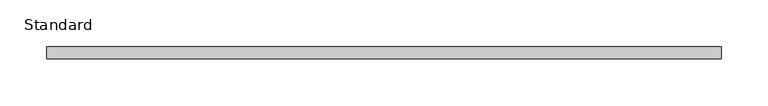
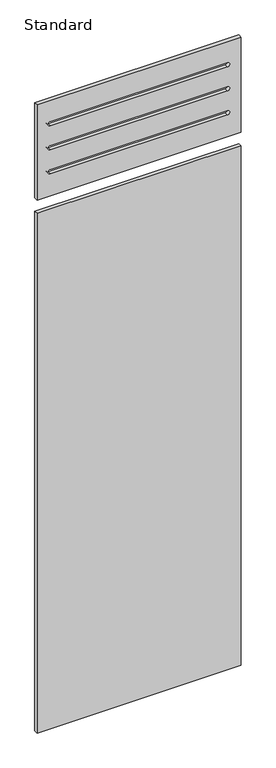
"""IFC4 building model written with IfcOpenShell, lengths in millimetres: furniture geometry, X_Partition-Compact Laminate-Duracube-Door : Standard."""

from ifc_helpers import new_model, si_unit, point, frame, frame_2d, origin, place, context, project, spatial, polyline, circle_curve, trimmed, segment, composite_curve, outline, extrude, source, transform, mapped, element, save


def standard_4d361739(model_context):
    return source(origin(), model_context, "Body", "SweptSolid", [
        extrude(outline(polyline([(2398.0, 407.2003264), (2398.0, -317.7996736), (2040.0, -317.7996736), (2040.0, 407.2003264), (2398.0, 407.2003264)]), holes=[composite_curve([segment(trimmed(circle_curve(frame_2d((2130.0, 359.7003264)), 7.5), [point((2137.5, 359.7003264))], [point((2122.5, 359.7003264))], True, "CARTESIAN"), True, "CONTINUOUS"), segment(polyline([(2122.5, 359.7003264), (2122.5, -270.2996736)]), True, "CONTINUOUS"), segment(trimmed(circle_curve(frame_2d((2130.0, -270.2996736)), 7.5), [point((2122.5, -270.2996736))], [point((2137.5, -270.2996736))], True, "CARTESIAN"), True, "CONTINUOUS"), segment(polyline([(2137.5, -270.2996736), (2137.5, 359.7003264)]), True, "CONTINUOUS")], self_intersect=False), composite_curve([segment(trimmed(circle_curve(frame_2d((2220.0, 359.7003264)), 7.5), [point((2227.5, 359.7003264))], [point((2212.5, 359.7003264))], True, "CARTESIAN"), True, "CONTINUOUS"), segment(polyline([(2212.5, 359.7003264), (2212.5, -270.2996736)]), True, "CONTINUOUS"), segment(trimmed(circle_curve(frame_2d((2220.0, -270.2996736)), 7.5), [point((2212.5, -270.2996736))], [point((2227.5, -270.2996736))], True, "CARTESIAN"), True, "CONTINUOUS"), segment(polyline([(2227.5, -270.2996736), (2227.5, 359.7003264)]), True, "CONTINUOUS")], self_intersect=False), composite_curve([segment(trimmed(circle_curve(frame_2d((2310.0, 359.7003264)), 7.5), [point((2317.5, 359.7003264))], [point((2302.5, 359.7003264))], True, "CARTESIAN"), True, "CONTINUOUS"), segment(polyline([(2302.5, 359.7003264), (2302.5, -270.2996736)]), True, "CONTINUOUS"), segment(trimmed(circle_curve(frame_2d((2310.0, -270.2996736)), 7.5), [point((2302.5, -270.2996736))], [point((2317.5, -270.2996736))], True, "CARTESIAN"), True, "CONTINUOUS"), segment(polyline([(2317.5, -270.2996736), (2317.5, 359.7003264)]), True, "CONTINUOUS")], self_intersect=False)]), frame((0.0, -13.0, 0.0), z_axis=(0.0, 1.0, 0.0), x_axis=(0.0, 0.0, 1.0)), (0.0, 0.0, 1.0), 13.0),
        extrude(outline(polyline([(407.2003264, 0.0), (407.2003264, -13.0), (-317.7996736, -13.0), (-317.7996736, 0.0), (407.2003264, 0.0)])), frame((0.0, 0.0, 40.0), z_axis=(0.0, 0.0, 1.0), x_axis=(1.0, 0.0, 0.0)), (0.0, 0.0, 1.0), 1950.0),
    ])


if __name__ == "__main__":
    model = new_model("IFC4")
    model_context = context("Model", 3, world=origin())
    ifc_project = project(units=[si_unit("LENGTHUNIT", "METRE", prefix="MILLI")], contexts=[model_context])
    site = spatial("IfcSite", under=ifc_project)
    building = spatial("IfcBuilding", under=site)
    placement = place(None, origin())
    standard_shape = standard_4d361739(model_context)
    element("IfcFurniture", 1, ObjectType="X_Partition-Compact Laminate-Duracube-Door : Standard", at=placement, inside=building, context=model_context, shape_type="MappedRepresentation", body=[
        mapped(standard_shape, transform((0.0, 0.0, 0.0), x_axis=(1.0, 0.0, 0.0), y_axis=(0.0, 1.0, 0.0), z_axis=(0.0, 0.0, 1.0))),
    ])
    save(model, "model.ifc")
